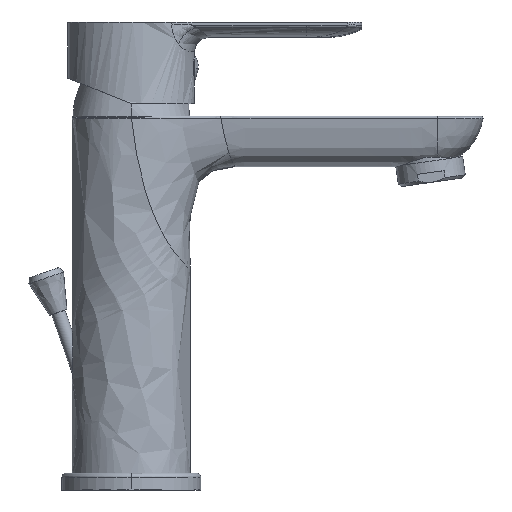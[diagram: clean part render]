
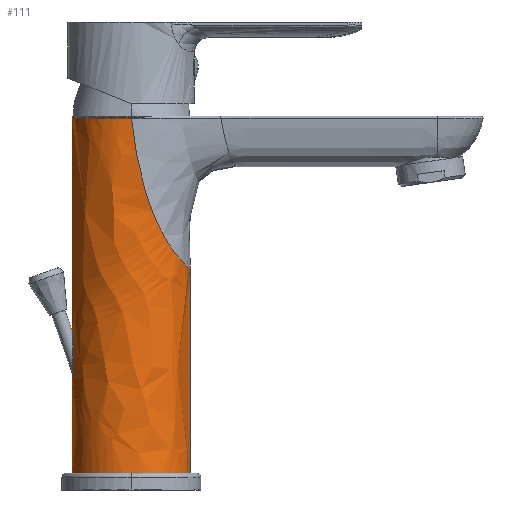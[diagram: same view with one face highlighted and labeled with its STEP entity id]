
A CAD part, left-side view. The second image highlights one B-rep face of the part: STEP entity #111.
In plain terms, the highlighted free-form (B-spline) face has degree [1, 2] with [2, 9] control points.
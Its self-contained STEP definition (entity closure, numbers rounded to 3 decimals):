
#111=ADVANCED_FACE('',(#252),#2055,.T.);
#252=FACE_OUTER_BOUND('',#397,.T.);
#397=EDGE_LOOP('',(#685,#686,#687,#688,#689,#690,#691));
#685=ORIENTED_EDGE('',*,*,#1232,.F.);
#686=ORIENTED_EDGE('',*,*,#1224,.T.);
#687=ORIENTED_EDGE('',*,*,#1234,.F.);
#688=ORIENTED_EDGE('',*,*,#1230,.F.);
#689=ORIENTED_EDGE('',*,*,#1217,.F.);
#690=ORIENTED_EDGE('',*,*,#1235,.T.);
#691=ORIENTED_EDGE('',*,*,#1183,.F.);
#1183=EDGE_CURVE('',#1821,#1820,#1470,.T.);
#1217=EDGE_CURVE('',#1846,#1847,#1640,.T.);
#1224=EDGE_CURVE('',#1855,#1851,#1645,.T.);
#1230=EDGE_CURVE('',#1847,#1854,#1648,.T.);
#1232=EDGE_CURVE('',#1855,#1821,#1650,.T.);
#1234=EDGE_CURVE('',#1854,#1851,#1497,.T.);
#1235=EDGE_CURVE('',#1846,#1820,#1651,.T.);
#1470=B_SPLINE_CURVE_WITH_KNOTS('',3,(#5119,#5120,#5121,#5122,#5123,#5124,
#5125,#5126,#5127,#5128,#5129,#5130,#5131,#5132,#5133,#5134,#5135,#5136),
 .UNSPECIFIED.,.F.,.F.,(4,2,2,2,2,2,2,2,4),(0.,0.056,0.111,
0.24,0.497,0.754,0.882,
0.941,1.),.UNSPECIFIED.);
#1497=B_SPLINE_CURVE_WITH_KNOTS('',3,(#5893,#5894,#5895,#5896,#5897,#5898,
#5899,#5900,#5901,#5902,#5903,#5904,#5905,#5906),.UNSPECIFIED.,.F.,.F.,
(4,2,2,2,2,2,4),(-1.,-0.867,-0.736,-0.616,
-0.494,-0.247,0.),.UNSPECIFIED.);
#1640=(
BOUNDED_CURVE()
B_SPLINE_CURVE(2,(#5808,#5809,#5810,#5811,#5812),.UNSPECIFIED.,.F.,.F.)
B_SPLINE_CURVE_WITH_KNOTS((3,2,3),(0.,32.987,65.973),
 .UNSPECIFIED.)
CURVE()
GEOMETRIC_REPRESENTATION_ITEM()
RATIONAL_B_SPLINE_CURVE((1.,0.707,1.,0.707,1.))
REPRESENTATION_ITEM('')
);
#1645=(
BOUNDED_CURVE()
B_SPLINE_CURVE(2,(#5843,#5844,#5845,#5846,#5847),.UNSPECIFIED.,.F.,.F.)
B_SPLINE_CURVE_WITH_KNOTS((3,2,3),(-63.969,-63.617,
-32.079),.UNSPECIFIED.)
CURVE()
GEOMETRIC_REPRESENTATION_ITEM()
RATIONAL_B_SPLINE_CURVE((1.,1.,1.,0.711,1.))
REPRESENTATION_ITEM('')
);
#1648=(
BOUNDED_CURVE()
B_SPLINE_CURVE(1,(#5874,#5875),.UNSPECIFIED.,.F.,.F.)
B_SPLINE_CURVE_WITH_KNOTS((2,2),(-72.222,0.),.UNSPECIFIED.)
CURVE()
GEOMETRIC_REPRESENTATION_ITEM()
RATIONAL_B_SPLINE_CURVE((1.,1.))
REPRESENTATION_ITEM('')
);
#1650=(
BOUNDED_CURVE()
B_SPLINE_CURVE(1,(#5881,#5882),.UNSPECIFIED.,.F.,.F.)
B_SPLINE_CURVE_WITH_KNOTS((2,2),(0.,73.989),.UNSPECIFIED.)
CURVE()
GEOMETRIC_REPRESENTATION_ITEM()
RATIONAL_B_SPLINE_CURVE((1.,1.))
REPRESENTATION_ITEM('')
);
#1651=(
BOUNDED_CURVE()
B_SPLINE_CURVE(1,(#5907,#5908),.UNSPECIFIED.,.F.,.F.)
B_SPLINE_CURVE_WITH_KNOTS((2,2),(-32.17,0.),.UNSPECIFIED.)
CURVE()
GEOMETRIC_REPRESENTATION_ITEM()
RATIONAL_B_SPLINE_CURVE((1.,1.))
REPRESENTATION_ITEM('')
);
#1820=VERTEX_POINT('',#5065);
#1821=VERTEX_POINT('',#5066);
#1846=VERTEX_POINT('',#5091);
#1847=VERTEX_POINT('',#5092);
#1851=VERTEX_POINT('',#5096);
#1854=VERTEX_POINT('',#5099);
#1855=VERTEX_POINT('',#5100);
#2055=(
BOUNDED_SURFACE()
B_SPLINE_SURFACE(1,2,((#4991,#4992,#4993,#4994,#4995,#4996,#4997,#4998,
#4999),(#5000,#5001,#5002,#5003,#5004,#5005,#5006,#5007,#5008)),
 .UNSPECIFIED.,.F.,.F.,.F.)
B_SPLINE_SURFACE_WITH_KNOTS((2,2),(3,2,2,2,3),(0.,152.036),(0.,
32.987,65.973,98.96,131.947),
 .UNSPECIFIED.)
GEOMETRIC_REPRESENTATION_ITEM()
RATIONAL_B_SPLINE_SURFACE(((1.,0.707,1.,0.707,1.,
0.707,1.,0.707,1.),(1.,0.707,1.,0.707,
1.,0.707,1.,0.707,1.)))
REPRESENTATION_ITEM('')
SURFACE()
);
#4991=CARTESIAN_POINT('',(17.353,68.096,-92.145));
#4992=CARTESIAN_POINT('',(17.353,89.096,-92.145));
#4993=CARTESIAN_POINT('',(-3.647,89.096,-92.145));
#4994=CARTESIAN_POINT('',(-24.647,89.096,-92.145));
#4995=CARTESIAN_POINT('',(-24.647,68.096,-92.145));
#4996=CARTESIAN_POINT('',(-24.647,47.096,-92.145));
#4997=CARTESIAN_POINT('',(-3.647,47.096,-92.145));
#4998=CARTESIAN_POINT('',(17.353,47.096,-92.145));
#4999=CARTESIAN_POINT('',(17.353,68.096,-92.145));
#5000=CARTESIAN_POINT('',(17.353,68.096,59.891));
#5001=CARTESIAN_POINT('',(17.353,89.096,59.891));
#5002=CARTESIAN_POINT('',(-3.647,89.096,59.891));
#5003=CARTESIAN_POINT('',(-24.647,89.096,59.891));
#5004=CARTESIAN_POINT('',(-24.647,68.096,59.891));
#5005=CARTESIAN_POINT('',(-24.647,47.096,59.891));
#5006=CARTESIAN_POINT('',(-3.647,47.096,59.891));
#5007=CARTESIAN_POINT('',(17.353,47.096,59.891));
#5008=CARTESIAN_POINT('',(17.353,68.096,59.891));
#5065=CARTESIAN_POINT('',(-3.647,89.096,-47.082));
#5066=CARTESIAN_POINT('',(-3.647,89.096,-26.991));
#5091=CARTESIAN_POINT('',(-3.647,89.096,-79.252));
#5092=CARTESIAN_POINT('',(-3.647,47.096,-79.252));
#5096=CARTESIAN_POINT('',(-24.647,68.02,46.998));
#5099=CARTESIAN_POINT('',(-3.647,47.096,-7.03));
#5100=CARTESIAN_POINT('',(-3.647,89.096,46.998));
#5119=CARTESIAN_POINT('',(-3.647,89.096,-26.991));
#5120=CARTESIAN_POINT('',(-4.17,89.096,-26.991));
#5121=CARTESIAN_POINT('',(-4.519,89.079,-27.588));
#5122=CARTESIAN_POINT('',(-4.911,89.059,-28.358));
#5123=CARTESIAN_POINT('',(-5.038,89.051,-28.692));
#5124=CARTESIAN_POINT('',(-5.443,89.021,-29.923));
#5125=CARTESIAN_POINT('',(-5.631,89.003,-30.805));
#5126=CARTESIAN_POINT('',(-6.08,88.957,-33.482));
#5127=CARTESIAN_POINT('',(-6.217,88.938,-35.273));
#5128=CARTESIAN_POINT('',(-6.27,88.932,-38.894));
#5129=CARTESIAN_POINT('',(-6.183,88.945,-40.684));
#5130=CARTESIAN_POINT('',(-5.767,88.99,-43.372));
#5131=CARTESIAN_POINT('',(-5.581,89.01,-44.251));
#5132=CARTESIAN_POINT('',(-5.139,89.044,-45.497));
#5133=CARTESIAN_POINT('',(-4.986,89.055,-45.866));
#5134=CARTESIAN_POINT('',(-4.534,89.079,-46.603));
#5135=CARTESIAN_POINT('',(-4.16,89.096,-47.082));
#5136=CARTESIAN_POINT('',(-3.647,89.096,-47.082));
#5808=CARTESIAN_POINT('',(-3.647,89.096,-79.252));
#5809=CARTESIAN_POINT('',(-24.647,89.096,-79.252));
#5810=CARTESIAN_POINT('',(-24.647,68.096,-79.252));
#5811=CARTESIAN_POINT('',(-24.647,47.096,-79.252));
#5812=CARTESIAN_POINT('',(-3.647,47.096,-79.252));
#5843=CARTESIAN_POINT('',(-3.647,89.096,46.998));
#5844=CARTESIAN_POINT('',(-3.812,89.096,46.998));
#5845=CARTESIAN_POINT('',(-3.976,89.093,46.998));
#5846=CARTESIAN_POINT('',(-24.722,88.768,46.998));
#5847=CARTESIAN_POINT('',(-24.647,68.02,46.998));
#5874=CARTESIAN_POINT('',(-3.647,47.096,-79.252));
#5875=CARTESIAN_POINT('',(-3.647,47.096,-7.03));
#5881=CARTESIAN_POINT('',(-3.647,89.096,46.998));
#5882=CARTESIAN_POINT('',(-3.647,89.096,-26.991));
#5893=CARTESIAN_POINT('',(-3.647,47.096,-7.03));
#5894=CARTESIAN_POINT('',(-6.4,47.096,-7.03));
#5895=CARTESIAN_POINT('',(-9.132,47.655,-6.565));
#5896=CARTESIAN_POINT('',(-13.977,49.628,-4.551));
#5897=CARTESIAN_POINT('',(-16.107,51.032,-2.998));
#5898=CARTESIAN_POINT('',(-19.401,54.046,1.096));
#5899=CARTESIAN_POINT('',(-20.55,55.533,3.429));
#5900=CARTESIAN_POINT('',(-22.256,58.232,8.399));
#5901=CARTESIAN_POINT('',(-22.814,59.446,11.039));
#5902=CARTESIAN_POINT('',(-24.015,62.524,18.727));
#5903=CARTESIAN_POINT('',(-24.312,64.159,24.317));
#5904=CARTESIAN_POINT('',(-24.632,66.622,35.697));
#5905=CARTESIAN_POINT('',(-24.645,67.462,41.485));
#5906=CARTESIAN_POINT('',(-24.647,68.02,46.998));
#5907=CARTESIAN_POINT('',(-3.647,89.096,-79.252));
#5908=CARTESIAN_POINT('',(-3.647,89.096,-47.082));
